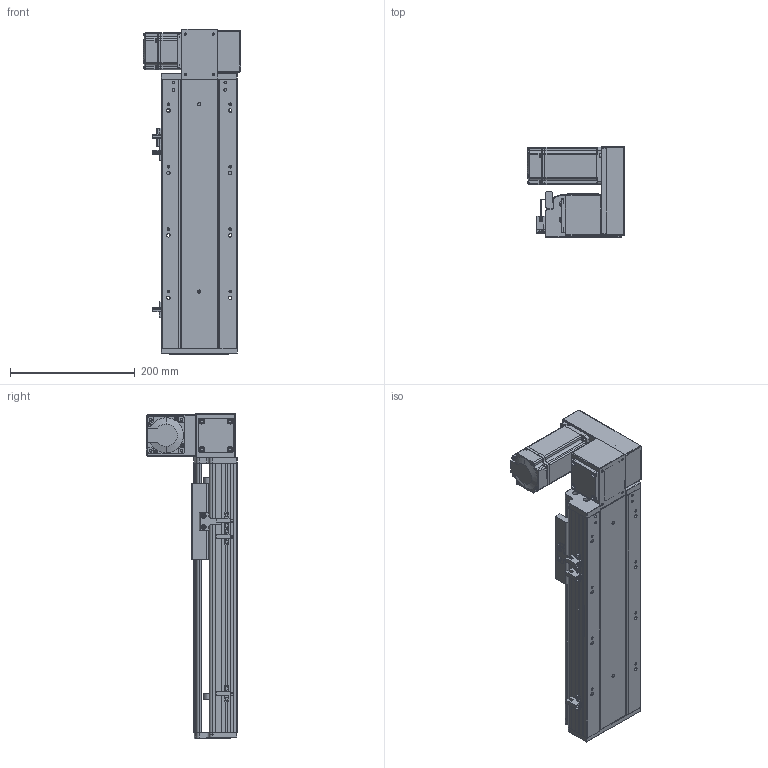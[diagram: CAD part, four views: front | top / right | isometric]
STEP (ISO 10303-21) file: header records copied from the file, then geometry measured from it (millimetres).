
FILE_DESCRIPTION (( 'STEP AP203' ), '1' );
FILE_NAME ('RY120-T-300-UR.SLDASM_200.step', '2021-03-01T05:55:25', ( '盈信电脑' ), ( '东莞市道滘镇水果街19号' ), 'SwSTEP 2.0', 'SolidWorks 2012', '' );
FILE_SCHEMA (( 'CONFIG_CONTROL_DESIGN' ));
Length unit declared in the file: millimetre
Products named in the file (17): RY120-T-300-UR.SLDASM_200; RY120-T蹟翐M4; RY120-T萇儂欶; 15; RY120-T主同步轮轴承压盖; 滅袉蝶18-10; RY120-T翋肮祭謫裔啣; RY120-T萇儂假蚾啣; RY120-T翋肮祭盓傅釱; RY120-T肮祭湍揤踡輸2; RY120-T肮祭湍揤踡輸1; RY120外置感应片(140共用）; RY120綴裔啣; RY120-T-300-UR倰第奻裔啣_200; 覜茼ん672; RY120肮祭湍臏賑輸; RY120-T-300-UR倰第菁釱_200
Assembly tree (22 placements, depth 2):
  RY120-T-300-UR.SLDASM_200
    RY120-T-300-UR倰第菁釱_200
    RY120-T-300-UR倰第奻裔啣_200
    RY120肮祭湍臏賑輸
    RY120綴裔啣
    覜茼ん672  x3
    RY120外置感应片(140共用）
    RY120-T肮祭湍揤踡輸1
    RY120-T肮祭湍揤踡輸2
    RY120-T翋肮祭盓傅釱
    RY120-T萇儂假蚾啣
    滅袉蝶18-10  x2
    RY120-T翋肮祭謫裔啣
    15
    RY120-T蹟翐M4  x4
    RY120-T萇儂欶
    RY120-T主同步轮轴承压盖
Bounding box: 155.5 x 146 x 521 mm (x, y, z)
Volume: 1865827.4 mm3; surface area: 656407.5 mm2
Topology: 23 solids, 23 shells, 2582 faces, 7004 edges, 4516 vertices
Faces by surface type: plane 1382, cylinder 920, cone 191, bspline 89
Entity records: 81019 total; most frequent: CARTESIAN_POINT 19918, ORIENTED_EDGE 12536, DIRECTION 11926, EDGE_CURVE 6268, VERTEX_POINT 4103, VECTOR 4056, LINE 4056, AXIS2_PLACEMENT_3D 3935
